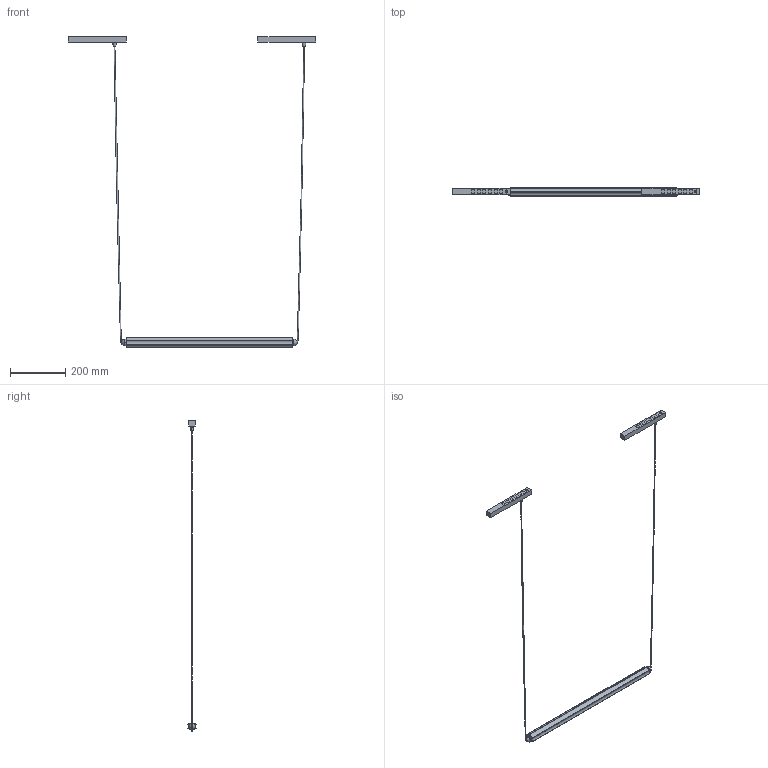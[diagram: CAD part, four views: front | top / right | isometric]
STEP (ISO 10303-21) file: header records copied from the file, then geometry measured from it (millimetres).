
FILE_DESCRIPTION(/* description */ (''),/* implementation_level */ '2;1');
FILE_NAME(/* name */ '64612141D_3d',/* time_stamp */ '2026-05-11T12:21:23+02:00',/* author */ (''),/* organization */ (''),/* preprocessor_version */ 'ST-DEVELOPER v19.2',/* originating_system */ 'Rhino 8.30',/* authorisation */ '');
FILE_SCHEMA (('CONFIG_CONTROL_DESIGN'));
Length unit declared in the file: millimetre
Products named in the file (1): Document
Bounding box: 892.88 x 29.26 x 1118.97 mm (x, y, z)
Volume: 225949 mm3; surface area: 157769.6 mm2
Topology: 3 solids, 10 shells, 221 faces, 582 edges, 387 vertices
Faces by surface type: plane 119, cylinder 87, bspline 15
Entity records: 11969 total; most frequent: CARTESIAN_POINT 7267, ORIENTED_EDGE 1114, EDGE_CURVE 573, DIRECTION 510, B_SPLINE_CURVE_WITH_KNOTS 416, VERTEX_POINT 378, AXIS2_PLACEMENT_3D 358, EDGE_LOOP 259
